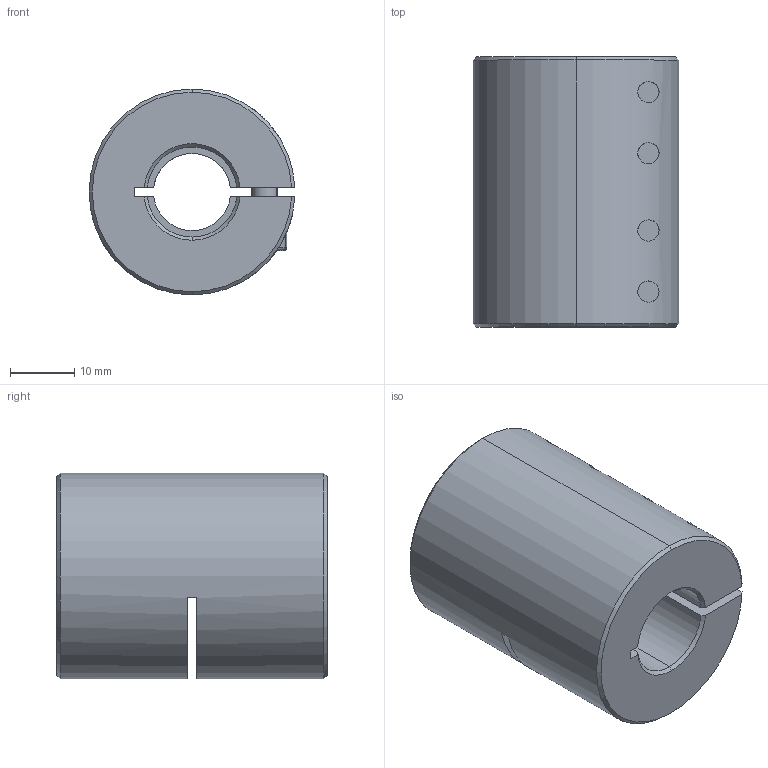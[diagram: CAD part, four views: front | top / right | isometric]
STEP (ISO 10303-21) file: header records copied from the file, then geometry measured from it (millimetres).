
FILE_DESCRIPTION (( 'STEP AP203' ), '1' );
FILE_NAME ('LL-B-D32L42-12-14.STEP', '2021-11-05T07:51:03', ( '' ), ( '' ), 'SwSTEP 2.0', 'SolidWorks 2018', '' );
FILE_SCHEMA (( 'CONFIG_CONTROL_DESIGN' ));
Length unit declared in the file: millimetre
Products named in the file (1): LL-B-D32L42-12-14
Bounding box: 31.98 x 42 x 32 mm (x, y, z)
Volume: 26003.5 mm3; surface area: 10304.7 mm2
Topology: 1 solids, 1 shells, 193 faces, 492 edges, 309 vertices
Faces by surface type: plane 88, cylinder 77, cone 20, torus 8
Entity records: 6376 total; most frequent: CARTESIAN_POINT 1559, DIRECTION 1037, ORIENTED_EDGE 968, EDGE_CURVE 484, AXIS2_PLACEMENT_3D 403, VERTEX_POINT 309, LINE 231, VECTOR 231
